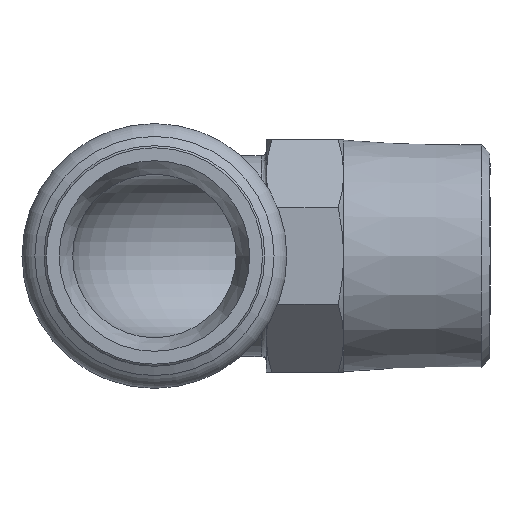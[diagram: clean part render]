
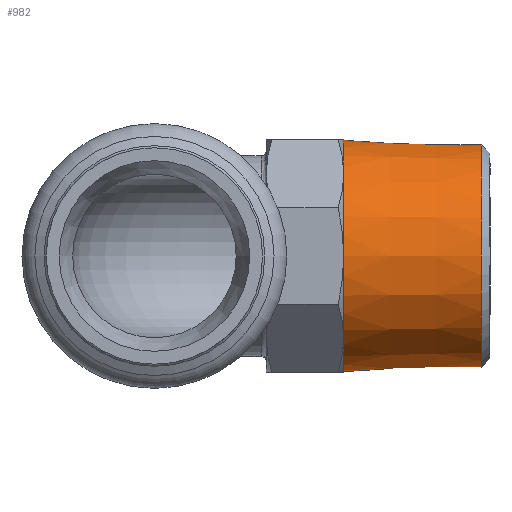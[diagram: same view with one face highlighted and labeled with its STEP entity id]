
A CAD part, left-side view. The second image highlights one B-rep face of the part: STEP entity #982.
In plain terms, the highlighted conical face has half-angle 1.79 degrees and reference radius 13.055 mm.
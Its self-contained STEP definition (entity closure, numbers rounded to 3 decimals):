
#940=CARTESIAN_POINT('',(1.045,-22.,0.));
#941=VERTEX_POINT('',#940);
#942=CARTESIAN_POINT('',(14.,-22.,0.));
#943=DIRECTION('',(0.0,-1.0,0.0));
#944=DIRECTION('',(1.0,0.0,0.0));
#945=AXIS2_PLACEMENT_3D('',#942,#943,#944);
#946=CIRCLE('',#945,12.955);
#947=EDGE_CURVE('',#941,#941,#946,.T.);
#963=CARTESIAN_POINT('',(14.,-18.785,0.0));
#964=DIRECTION('',(0.,1.0,0.0));
#965=DIRECTION('',(1.0,0.0,0.0));
#966=AXIS2_PLACEMENT_3D('',#963,#964,#965);
#967=CONICAL_SURFACE('',#966,13.055,1.79);
#968=CARTESIAN_POINT('',(27.455,-6.,0.0));
#969=VERTEX_POINT('',#968);
#970=CARTESIAN_POINT('',(14.,-6.,0.0));
#971=DIRECTION('',(0.0,1.0,0.0));
#972=DIRECTION('',(1.0,0.0,0.0));
#973=AXIS2_PLACEMENT_3D('',#970,#971,#972);
#974=CIRCLE('',#973,13.455);
#975=EDGE_CURVE('',#969,#969,#974,.T.);
#976=ORIENTED_EDGE('',*,*,#975,.F.);
#977=EDGE_LOOP('',(#976));
#978=FACE_OUTER_BOUND('',#977,.T.);
#979=ORIENTED_EDGE('',*,*,#947,.F.);
#980=EDGE_LOOP('',(#979));
#981=FACE_BOUND('',#980,.T.);
#982=ADVANCED_FACE('',(#978,#981),#967,.T.);
